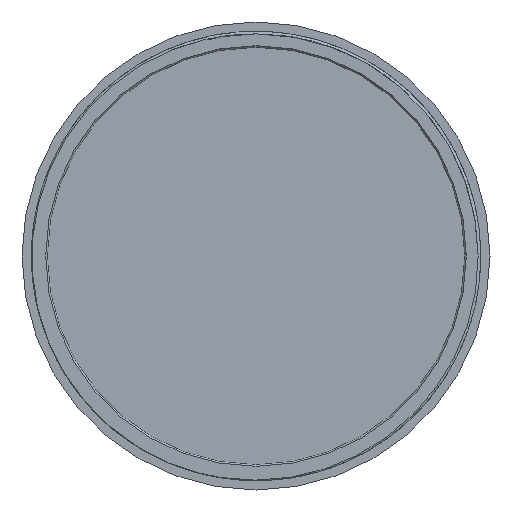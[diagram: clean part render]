
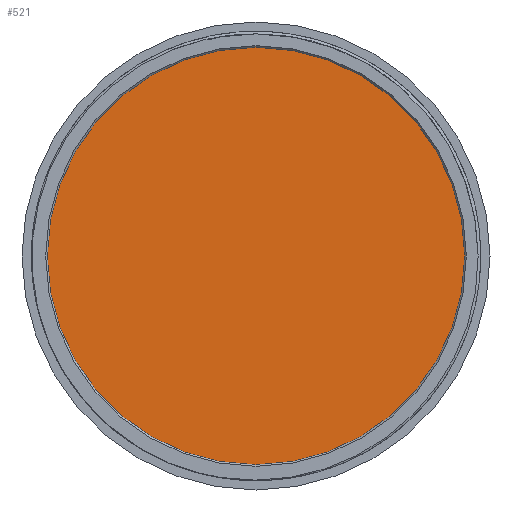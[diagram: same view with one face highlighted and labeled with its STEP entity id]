
A CAD part, front view. The second image highlights one B-rep face of the part: STEP entity #521.
In plain terms, the highlighted planar face has unit normal (0, -1, 0).
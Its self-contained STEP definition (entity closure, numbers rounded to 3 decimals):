
#150 = EDGE_LOOP ( 'NONE', ( #2465, #315 ) ) ;
#315 = ORIENTED_EDGE ( 'NONE', *, *, #1413, .F. ) ;
#392 = DIRECTION ( 'NONE',  ( 0., 1., 0. ) ) ;
#430 = AXIS2_PLACEMENT_3D ( 'NONE', #2458, #1073, #875 ) ;
#499 = VERTEX_POINT ( 'NONE', #1137 ) ;
#521 = ADVANCED_FACE ( 'NONE', ( #892 ), #2024, .F. ) ;
#655 = VERTEX_POINT ( 'NONE', #2380 ) ;
#875 = DIRECTION ( 'NONE',  ( 0., 0., 1. ) ) ;
#892 = FACE_OUTER_BOUND ( 'NONE', #150, .T. ) ;
#1073 = DIRECTION ( 'NONE',  ( 0., 1., 0. ) ) ;
#1137 = CARTESIAN_POINT ( 'NONE',  ( 0., 2.5, 34.2 ) ) ;
#1274 = AXIS2_PLACEMENT_3D ( 'NONE', #2662, #1563, #2677 ) ;
#1413 = EDGE_CURVE ( 'NONE', #499, #655, #1710, .T. ) ;
#1479 = CARTESIAN_POINT ( 'NONE',  ( 0., 2.5, 0. ) ) ;
#1493 = DIRECTION ( 'NONE',  ( 0., 0., 1. ) ) ;
#1563 = DIRECTION ( 'NONE',  ( 0., 1., 0. ) ) ;
#1710 = CIRCLE ( 'NONE', #2088, 34.2 ) ;
#2024 = PLANE ( 'NONE',  #1274 ) ;
#2088 = AXIS2_PLACEMENT_3D ( 'NONE', #1479, #392, #1493 ) ;
#2380 = CARTESIAN_POINT ( 'NONE',  ( 0., 2.5, -34.2 ) ) ;
#2413 = CIRCLE ( 'NONE', #430, 34.2 ) ;
#2458 = CARTESIAN_POINT ( 'NONE',  ( 0., 2.5, 0. ) ) ;
#2465 = ORIENTED_EDGE ( 'NONE', *, *, #2534, .F. ) ;
#2534 = EDGE_CURVE ( 'NONE', #655, #499, #2413, .T. ) ;
#2662 = CARTESIAN_POINT ( 'NONE',  ( 0., 2.5, 0. ) ) ;
#2677 = DIRECTION ( 'NONE',  ( 0., 0., 1. ) ) ;
